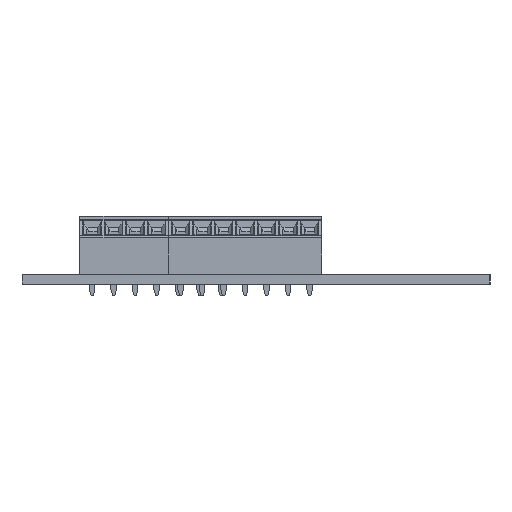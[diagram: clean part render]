
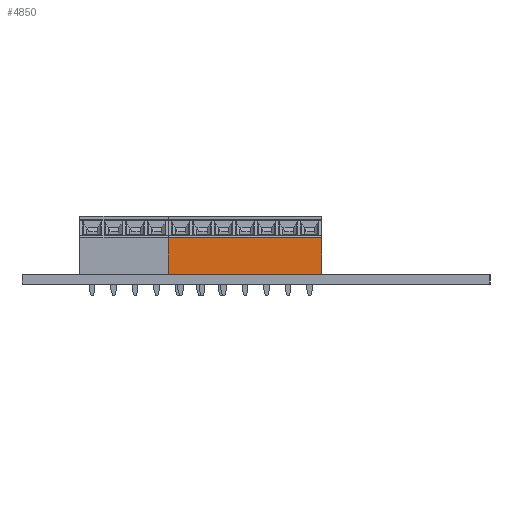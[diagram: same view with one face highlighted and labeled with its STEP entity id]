
A CAD part, left-side view. The second image highlights one B-rep face of the part: STEP entity #4850.
In plain terms, the highlighted planar face has unit normal (-1, 0, 0) as drawn and (1, 0, 0) by its records, which use the part's own axes.
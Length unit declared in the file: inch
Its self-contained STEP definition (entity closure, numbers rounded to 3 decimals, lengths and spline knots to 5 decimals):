
#258 = EDGE_CURVE ( 'NONE', #17686, #15291, #4334, .T. ) ;
#333 = EDGE_LOOP ( 'NONE', ( #16288, #13800, #13699, #3445 ) ) ;
#472 = PLANE ( 'NONE',  #16600 ) ;
#754 = DIRECTION ( 'NONE',  ( 1., 0., 0. ) ) ;
#1229 = EDGE_CURVE ( 'NONE', #15291, #17182, #10870, .T. ) ;
#1893 = VECTOR ( 'NONE', #9650, 39.37008 ) ;
#2026 = DIRECTION ( 'NONE',  ( 0., 1., 0. ) ) ;
#2857 = CARTESIAN_POINT ( 'NONE',  ( 0.3937, 0.23573, -0.98425 ) ) ;
#3135 = CARTESIAN_POINT ( 'NONE',  ( 0.3937, 0., -0.49213 ) ) ;
#3445 = ORIENTED_EDGE ( 'NONE', *, *, #1229, .F. ) ;
#3493 = CARTESIAN_POINT ( 'NONE',  ( 0.3937, 0., -0.98425 ) ) ;
#3737 = CARTESIAN_POINT ( 'NONE',  ( 0.3937, 0.24598, 0. ) ) ;
#4016 = DIRECTION ( 'NONE',  ( 0., 0., 1. ) ) ;
#4334 = LINE ( 'NONE', #4526, #18628 ) ;
#4526 = CARTESIAN_POINT ( 'NONE',  ( 0.3937, 0., -0.98425 ) ) ;
#4670 = DIRECTION ( 'NONE',  ( 0., 0., 1. ) ) ;
#4850 = ADVANCED_FACE ( 'NONE', ( #13934 ), #472, .T. ) ;
#6038 = VECTOR ( 'NONE', #4016, 39.37008 ) ;
#8274 = CARTESIAN_POINT ( 'NONE',  ( 0.3937, 0., -0.98425 ) ) ;
#9650 = DIRECTION ( 'NONE',  ( 0., 1., 0. ) ) ;
#10067 = EDGE_CURVE ( 'NONE', #17182, #11328, #18745, .T. ) ;
#10870 = LINE ( 'NONE', #3135, #15556 ) ;
#11328 = VERTEX_POINT ( 'NONE', #12642 ) ;
#12642 = CARTESIAN_POINT ( 'NONE',  ( 0.3937, 0.23573, 0. ) ) ;
#12900 = CARTESIAN_POINT ( 'NONE',  ( 0.3937, 0.23573, -0.98425 ) ) ;
#13189 = CARTESIAN_POINT ( 'NONE',  ( 0.3937, 0., 0. ) ) ;
#13699 = ORIENTED_EDGE ( 'NONE', *, *, #10067, .F. ) ;
#13800 = ORIENTED_EDGE ( 'NONE', *, *, #14197, .T. ) ;
#13934 = FACE_OUTER_BOUND ( 'NONE', #333, .T. ) ;
#14197 = EDGE_CURVE ( 'NONE', #17686, #11328, #17275, .T. ) ;
#14879 = DIRECTION ( 'NONE',  ( 0., -1., 0. ) ) ;
#15291 = VERTEX_POINT ( 'NONE', #8274 ) ;
#15556 = VECTOR ( 'NONE', #4670, 39.37008 ) ;
#16288 = ORIENTED_EDGE ( 'NONE', *, *, #258, .F. ) ;
#16600 = AXIS2_PLACEMENT_3D ( 'NONE', #3493, #754, #2026 ) ;
#17182 = VERTEX_POINT ( 'NONE', #13189 ) ;
#17275 = LINE ( 'NONE', #2857, #6038 ) ;
#17686 = VERTEX_POINT ( 'NONE', #12900 ) ;
#18628 = VECTOR ( 'NONE', #14879, 39.37008 ) ;
#18745 = LINE ( 'NONE', #3737, #1893 ) ;
